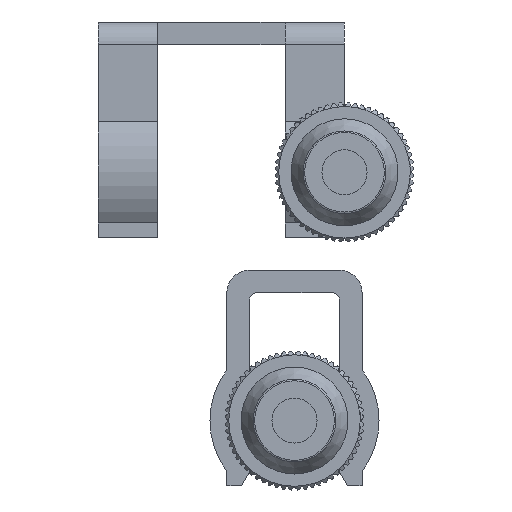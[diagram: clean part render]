
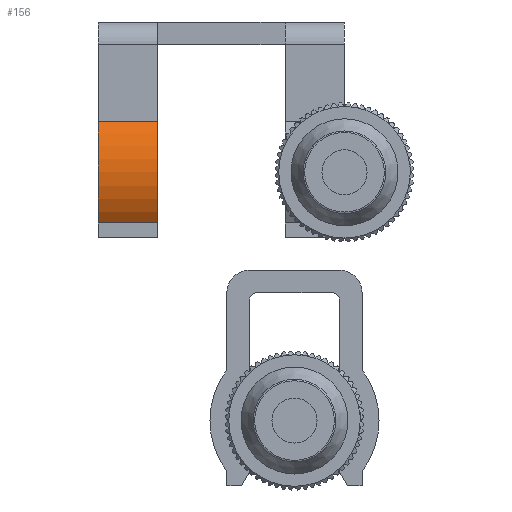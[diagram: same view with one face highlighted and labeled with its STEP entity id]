
A CAD part, left-side view. The second image highlights one B-rep face of the part: STEP entity #156.
In plain terms, the highlighted cylindrical face has radius 11.25 mm (diameter 22.5 mm), a partial arc.
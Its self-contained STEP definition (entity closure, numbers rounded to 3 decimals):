
#156 = ADVANCED_FACE( '', ( #315 ), #316, .T. );
#315 = FACE_OUTER_BOUND( '', #493, .T. );
#316 = CYLINDRICAL_SURFACE( '', #494, 11.25 );
#493 = EDGE_LOOP( '', ( #1473, #1474, #1475, #1476 ) );
#494 = AXIS2_PLACEMENT_3D( '', #1477, #1478, #1479 );
#1473 = ORIENTED_EDGE( '', *, *, #3115, .T. );
#1474 = ORIENTED_EDGE( '', *, *, #3132, .T. );
#1475 = ORIENTED_EDGE( '', *, *, #3133, .T. );
#1476 = ORIENTED_EDGE( '', *, *, #3106, .F. );
#1477 = CARTESIAN_POINT( '', ( 0., 0., 0. ) );
#1478 = DIRECTION( '', ( 0., -1., 0. ) );
#1479 = DIRECTION( '', ( 0.8, 0., 0.6 ) );
#3106 = EDGE_CURVE( '', #4668, #4670, #4671, .T. );
#3115 = EDGE_CURVE( '', #4668, #4680, #4682, .T. );
#3132 = EDGE_CURVE( '', #4680, #4706, #4707, .T. );
#3133 = EDGE_CURVE( '', #4706, #4670, #4708, .T. );
#4668 = VERTEX_POINT( '', #10581 );
#4670 = VERTEX_POINT( '', #10584 );
#4671 = LINE( '', #10585, #10586 );
#4680 = VERTEX_POINT( '', #10599 );
#4682 = CIRCLE( '', #10602, 11.25 );
#4706 = VERTEX_POINT( '', #10636 );
#4707 = LINE( '', #10637, #10638 );
#4708 = CIRCLE( '', #10639, 11.25 );
#10581 = CARTESIAN_POINT( '', ( -9., 24.9, -6.75 ) );
#10584 = CARTESIAN_POINT( '', ( -9., 32.8, -6.75 ) );
#10585 = CARTESIAN_POINT( '', ( -9., 24.9, -6.75 ) );
#10586 = VECTOR( '', #12683, 1000. );
#10599 = CARTESIAN_POINT( '', ( -9., 24.9, 6.75 ) );
#10602 = AXIS2_PLACEMENT_3D( '', #12689, #12690, #12691 );
#10636 = CARTESIAN_POINT( '', ( -9., 32.8, 6.75 ) );
#10637 = CARTESIAN_POINT( '', ( -9., 24.9, 6.75 ) );
#10638 = VECTOR( '', #12708, 1000. );
#10639 = AXIS2_PLACEMENT_3D( '', #12709, #12710, #12711 );
#12683 = DIRECTION( '', ( 0., 1., 0. ) );
#12689 = CARTESIAN_POINT( '', ( 0., 24.9, 0. ) );
#12690 = DIRECTION( '', ( 0., 1., 0. ) );
#12691 = DIRECTION( '', ( 0.8, 0., 0.6 ) );
#12708 = DIRECTION( '', ( 0., 1., 0. ) );
#12709 = CARTESIAN_POINT( '', ( 0., 32.8, 0. ) );
#12710 = DIRECTION( '', ( 0., -1., 0. ) );
#12711 = DIRECTION( '', ( 0.8, 0., 0.6 ) );
